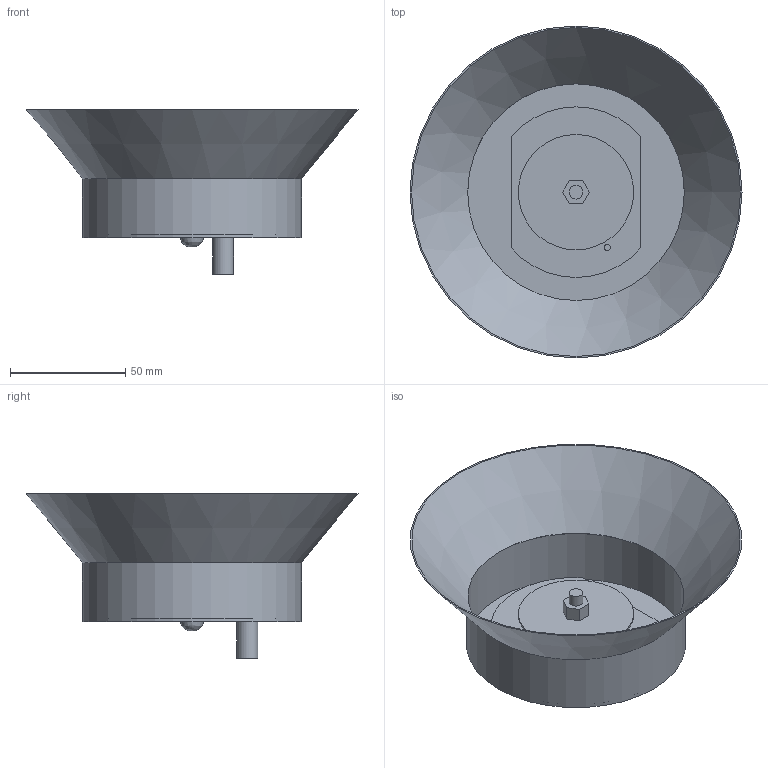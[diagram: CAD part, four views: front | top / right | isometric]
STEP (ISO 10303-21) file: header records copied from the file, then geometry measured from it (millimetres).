
FILE_DESCRIPTION((''),'2;1');
FILE_NAME('D:\Autodesk Invertor 2011\Projects2014\Antenna\Patch2100\P2100VR.stp','2014-07-10T06:58:01',('Evgeny'),(''),'Autodesk Inventor 2011','Autodesk Inventor 2011','');
FILE_SCHEMA(('AUTOMOTIVE_DESIGN { 1 0 10303 214 1 1 1 1 }'));
Length unit declared in the file: millimetre
Products named in the file (1): P2100VR
Bounding box: 144 x 144 x 71.5 mm (x, y, z)
Volume: 28914.7 mm3; surface area: 71144 mm2
Topology: 1 solids, 1 shells, 36 faces, 69 edges, 46 vertices
Faces by surface type: plane 21, cylinder 12, cone 2, bspline 1
Full cylindrical faces by diameter (mm): 2.7 x2, 6 x1, 8 x3, 9 x1, 50 x1, 94 x1, 95 x1
Entity records: 908 total; most frequent: CARTESIAN_POINT 179, DIRECTION 154, ORIENTED_EDGE 108, AXIS2_PLACEMENT_3D 64, EDGE_LOOP 62, EDGE_CURVE 54, VERTEX_POINT 44, FACE_OUTER_BOUND 36
